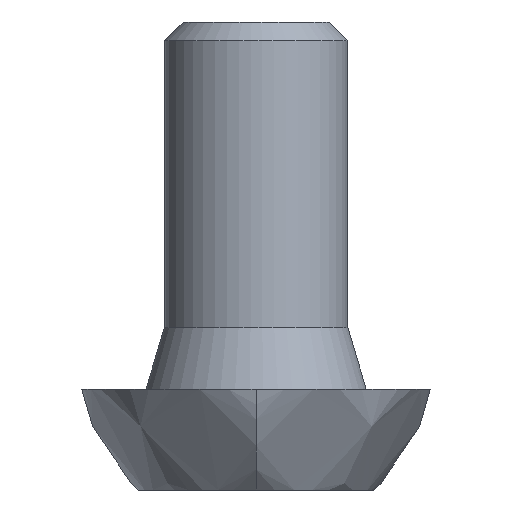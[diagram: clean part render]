
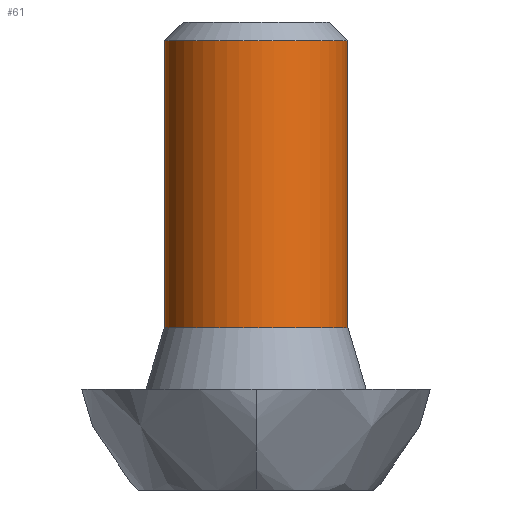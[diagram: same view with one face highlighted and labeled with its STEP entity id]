
A CAD part, front view. The second image highlights one B-rep face of the part: STEP entity #61.
In plain terms, the highlighted free-form (B-spline) face has degree [2, 1] with [9, 2] control points.
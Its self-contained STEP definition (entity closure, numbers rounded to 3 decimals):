
#61=ADVANCED_FACE('',(#86),#791,.T.);
#86=FACE_OUTER_BOUND('',#111,.T.);
#111=EDGE_LOOP('',(#199,#200,#201,#202));
#199=ORIENTED_EDGE('',*,*,#569,.F.);
#200=ORIENTED_EDGE('',*,*,#605,.T.);
#201=ORIENTED_EDGE('',*,*,#571,.F.);
#202=ORIENTED_EDGE('',*,*,#604,.F.);
#260=(
BOUNDED_CURVE()
B_SPLINE_CURVE(2,(#1545,#1546,#1547,#1548,#1549),.UNSPECIFIED.,.F.,.F.)
B_SPLINE_CURVE_WITH_KNOTS((3,2,3),(-4.712,-2.356,0.),
 .UNSPECIFIED.)
CURVE()
GEOMETRIC_REPRESENTATION_ITEM()
RATIONAL_B_SPLINE_CURVE((1.,0.707,1.,0.707,1.))
REPRESENTATION_ITEM('')
);
#261=(
BOUNDED_CURVE()
B_SPLINE_CURVE(2,(#1558,#1559,#1560,#1561,#1562),.UNSPECIFIED.,.F.,.F.)
B_SPLINE_CURVE_WITH_KNOTS((3,2,3),(-4.712,-2.356,0.),
 .UNSPECIFIED.)
CURVE()
GEOMETRIC_REPRESENTATION_ITEM()
RATIONAL_B_SPLINE_CURVE((1.,0.707,1.,0.707,1.))
REPRESENTATION_ITEM('')
);
#289=PCURVE('',#788,#401);
#291=PCURVE('',#788,#403);
#350=PCURVE('',#790,#462);
#353=PCURVE('',#791,#465);
#354=PCURVE('',#791,#466);
#355=PCURVE('',#791,#467);
#356=PCURVE('',#791,#468);
#360=PCURVE('',#792,#472);
#401=DEFINITIONAL_REPRESENTATION('',(#630),#1661);
#403=DEFINITIONAL_REPRESENTATION('',(#633),#1661);
#462=DEFINITIONAL_REPRESENTATION('',(#708),#1661);
#465=DEFINITIONAL_REPRESENTATION('',(#711),#1661);
#466=DEFINITIONAL_REPRESENTATION('',(#712),#1661);
#467=DEFINITIONAL_REPRESENTATION('',(#713),#1661);
#468=DEFINITIONAL_REPRESENTATION('',(#714),#1661);
#472=DEFINITIONAL_REPRESENTATION('',(#718),#1661);
#513=SURFACE_CURVE('',#629,(#289,#353),.PCURVE_S1.);
#515=SURFACE_CURVE('',#632,(#291,#355),.PCURVE_S1.);
#548=SURFACE_CURVE('',#260,(#350,#356),.PCURVE_S1.);
#549=SURFACE_CURVE('',#261,(#354,#360),.PCURVE_S1.);
#569=EDGE_CURVE('',#748,#751,#513,.T.);
#571=EDGE_CURVE('',#752,#749,#515,.T.);
#604=EDGE_CURVE('',#751,#752,#548,.T.);
#605=EDGE_CURVE('',#748,#749,#549,.T.);
#629=B_SPLINE_CURVE_WITH_KNOTS('',1,(#1326,#1327),.UNSPECIFIED.,.F.,.F.,
(2,2),(-4.694,0.),.UNSPECIFIED.);
#630=B_SPLINE_CURVE_WITH_KNOTS('',1,(#1328,#1329),.UNSPECIFIED.,.F.,.F.,
(2,2),(-4.694,0.),.UNSPECIFIED.);
#632=B_SPLINE_CURVE_WITH_KNOTS('',1,(#1337,#1338),.UNSPECIFIED.,.F.,.F.,
(2,2),(-4.694,0.),.UNSPECIFIED.);
#633=B_SPLINE_CURVE_WITH_KNOTS('',1,(#1339,#1340),.UNSPECIFIED.,.F.,.F.,
(2,2),(-4.694,0.),.UNSPECIFIED.);
#708=B_SPLINE_CURVE_WITH_KNOTS('',1,(#1550,#1551),.UNSPECIFIED.,.F.,.F.,
(2,2),(-4.712,0.),.UNSPECIFIED.);
#711=B_SPLINE_CURVE_WITH_KNOTS('',1,(#1556,#1557),.UNSPECIFIED.,.F.,.F.,
(2,2),(-4.694,0.),.UNSPECIFIED.);
#712=B_SPLINE_CURVE_WITH_KNOTS('',1,(#1563,#1564),.UNSPECIFIED.,.F.,.F.,
(2,2),(-4.712,0.),.UNSPECIFIED.);
#713=B_SPLINE_CURVE_WITH_KNOTS('',1,(#1565,#1566),.UNSPECIFIED.,.F.,.F.,
(2,2),(-4.694,0.),.UNSPECIFIED.);
#714=B_SPLINE_CURVE_WITH_KNOTS('',1,(#1567,#1568),.UNSPECIFIED.,.F.,.F.,
(2,2),(-4.712,0.),.UNSPECIFIED.);
#718=B_SPLINE_CURVE_WITH_KNOTS('',1,(#1580,#1581),.UNSPECIFIED.,.F.,.F.,
(2,2),(-4.712,0.),.UNSPECIFIED.);
#748=VERTEX_POINT('',#1224);
#749=VERTEX_POINT('',#1225);
#751=VERTEX_POINT('',#1227);
#752=VERTEX_POINT('',#1228);
#788=(
BOUNDED_SURFACE()
B_SPLINE_SURFACE(2,1,((#1007,#1008),(#1009,#1010),(#1011,#1012),(#1013,#1014),
(#1015,#1016),(#1017,#1018),(#1019,#1020),(#1021,#1022),(#1023,#1024)),
 .UNSPECIFIED.,.T.,.F.,.F.)
B_SPLINE_SURFACE_WITH_KNOTS((3,2,2,2,3),(2,2),(0.,1.571,3.142,
4.712,6.283),(0.,5.635),.UNSPECIFIED.)
GEOMETRIC_REPRESENTATION_ITEM()
RATIONAL_B_SPLINE_SURFACE(((1.,1.),(0.707,0.707),
(1.,1.),(0.707,0.707),(1.,1.),(0.707,
0.707),(1.,1.),(0.707,0.707),(1.,1.)))
REPRESENTATION_ITEM('')
SURFACE()
);
#790=(
BOUNDED_SURFACE()
B_SPLINE_SURFACE(2,1,((#1056,#1057),(#1058,#1059),(#1060,#1061),(#1062,#1063),
(#1064,#1065),(#1066,#1067),(#1068,#1069),(#1070,#1071),(#1072,#1073)),
 .UNSPECIFIED.,.T.,.F.,.F.)
B_SPLINE_SURFACE_WITH_KNOTS((3,2,2,2,3),(2,2),(0.,1.571,3.142,
4.712,6.283),(0.,2.335),.UNSPECIFIED.)
GEOMETRIC_REPRESENTATION_ITEM()
RATIONAL_B_SPLINE_SURFACE(((1.,1.),(0.707,0.707),
(1.,1.),(0.707,0.707),(1.,1.),(0.707,
0.707),(1.,1.),(0.707,0.707),(1.,1.)))
REPRESENTATION_ITEM('')
SURFACE()
);
#791=(
BOUNDED_SURFACE()
B_SPLINE_SURFACE(2,1,((#1074,#1075),(#1076,#1077),(#1078,#1079),(#1080,#1081),
(#1082,#1083),(#1084,#1085),(#1086,#1087),(#1088,#1089),(#1090,#1091)),
 .UNSPECIFIED.,.T.,.F.,.F.)
B_SPLINE_SURFACE_WITH_KNOTS((3,2,2,2,3),(2,2),(0.,1.571,3.142,
4.712,6.283),(0.,5.635),.UNSPECIFIED.)
GEOMETRIC_REPRESENTATION_ITEM()
RATIONAL_B_SPLINE_SURFACE(((1.,1.),(0.707,0.707),
(1.,1.),(0.707,0.707),(1.,1.),(0.707,
0.707),(1.,1.),(0.707,0.707),(1.,1.)))
REPRESENTATION_ITEM('')
SURFACE()
);
#792=(
BOUNDED_SURFACE()
B_SPLINE_SURFACE(2,1,((#1092,#1093),(#1094,#1095),(#1096,#1097),(#1098,#1099),
(#1100,#1101),(#1102,#1103),(#1104,#1105),(#1106,#1107),(#1108,#1109)),
 .UNSPECIFIED.,.T.,.F.,.F.)
B_SPLINE_SURFACE_WITH_KNOTS((3,2,2,2,3),(2,2),(0.,1.571,3.142,
4.712,6.283),(0.,6.892),.UNSPECIFIED.)
GEOMETRIC_REPRESENTATION_ITEM()
RATIONAL_B_SPLINE_SURFACE(((1.,1.),(0.707,0.707),
(1.,1.),(0.707,0.707),(1.,1.),(0.707,
0.707),(1.,1.),(0.707,0.707),(1.,1.)))
REPRESENTATION_ITEM('')
SURFACE()
);
#1007=CARTESIAN_POINT('',(0.529,0.,1.5));
#1008=CARTESIAN_POINT('',(6.164,0.,1.5));
#1009=CARTESIAN_POINT('',(0.529,-1.5,1.5));
#1010=CARTESIAN_POINT('',(6.164,-1.5,1.5));
#1011=CARTESIAN_POINT('',(0.529,-1.5,0.));
#1012=CARTESIAN_POINT('',(6.164,-1.5,0.));
#1013=CARTESIAN_POINT('',(0.529,-1.5,-1.5));
#1014=CARTESIAN_POINT('',(6.164,-1.5,-1.5));
#1015=CARTESIAN_POINT('',(0.529,0.,-1.5));
#1016=CARTESIAN_POINT('',(6.164,0.,-1.5));
#1017=CARTESIAN_POINT('',(0.529,1.5,-1.5));
#1018=CARTESIAN_POINT('',(6.164,1.5,-1.5));
#1019=CARTESIAN_POINT('',(0.529,1.5,0.));
#1020=CARTESIAN_POINT('',(6.164,1.5,0.));
#1021=CARTESIAN_POINT('',(0.529,1.5,1.5));
#1022=CARTESIAN_POINT('',(6.164,1.5,1.5));
#1023=CARTESIAN_POINT('',(0.529,0.,1.5));
#1024=CARTESIAN_POINT('',(6.164,0.,1.5));
#1056=CARTESIAN_POINT('',(7.194,0.,0.));
#1057=CARTESIAN_POINT('',(5.542,0.,-1.651));
#1058=CARTESIAN_POINT('',(7.194,0.,0.));
#1059=CARTESIAN_POINT('',(5.542,-1.651,-1.651));
#1060=CARTESIAN_POINT('',(7.194,0.,0.));
#1061=CARTESIAN_POINT('',(5.542,-1.651,0.));
#1062=CARTESIAN_POINT('',(7.194,0.,0.));
#1063=CARTESIAN_POINT('',(5.542,-1.651,1.651));
#1064=CARTESIAN_POINT('',(7.194,0.,0.));
#1065=CARTESIAN_POINT('',(5.542,0.,1.651));
#1066=CARTESIAN_POINT('',(7.194,0.,0.));
#1067=CARTESIAN_POINT('',(5.542,1.651,1.651));
#1068=CARTESIAN_POINT('',(7.194,0.,0.));
#1069=CARTESIAN_POINT('',(5.542,1.651,0.));
#1070=CARTESIAN_POINT('',(7.194,0.,0.));
#1071=CARTESIAN_POINT('',(5.542,1.651,-1.651));
#1072=CARTESIAN_POINT('',(7.194,0.,0.));
#1073=CARTESIAN_POINT('',(5.542,0.,-1.651));
#1074=CARTESIAN_POINT('',(0.529,0.,-1.5));
#1075=CARTESIAN_POINT('',(6.164,0.,-1.5));
#1076=CARTESIAN_POINT('',(0.529,1.5,-1.5));
#1077=CARTESIAN_POINT('',(6.164,1.5,-1.5));
#1078=CARTESIAN_POINT('',(0.529,1.5,0.));
#1079=CARTESIAN_POINT('',(6.164,1.5,0.));
#1080=CARTESIAN_POINT('',(0.529,1.5,1.5));
#1081=CARTESIAN_POINT('',(6.164,1.5,1.5));
#1082=CARTESIAN_POINT('',(0.529,0.,1.5));
#1083=CARTESIAN_POINT('',(6.164,0.,1.5));
#1084=CARTESIAN_POINT('',(0.529,-1.5,1.5));
#1085=CARTESIAN_POINT('',(6.164,-1.5,1.5));
#1086=CARTESIAN_POINT('',(0.529,-1.5,0.));
#1087=CARTESIAN_POINT('',(6.164,-1.5,0.));
#1088=CARTESIAN_POINT('',(0.529,-1.5,-1.5));
#1089=CARTESIAN_POINT('',(6.164,-1.5,-1.5));
#1090=CARTESIAN_POINT('',(0.529,0.,-1.5));
#1091=CARTESIAN_POINT('',(6.164,0.,-1.5));
#1092=CARTESIAN_POINT('',(6.,0.,0.));
#1093=CARTESIAN_POINT('',(-0.601,0.,-1.98));
#1094=CARTESIAN_POINT('',(6.,0.,0.));
#1095=CARTESIAN_POINT('',(-0.601,-1.98,-1.98));
#1096=CARTESIAN_POINT('',(6.,0.,0.));
#1097=CARTESIAN_POINT('',(-0.601,-1.98,0.));
#1098=CARTESIAN_POINT('',(6.,0.,0.));
#1099=CARTESIAN_POINT('',(-0.601,-1.98,1.98));
#1100=CARTESIAN_POINT('',(6.,0.,0.));
#1101=CARTESIAN_POINT('',(-0.601,0.,1.98));
#1102=CARTESIAN_POINT('',(6.,0.,0.));
#1103=CARTESIAN_POINT('',(-0.601,1.98,1.98));
#1104=CARTESIAN_POINT('',(6.,0.,0.));
#1105=CARTESIAN_POINT('',(-0.601,1.98,0.));
#1106=CARTESIAN_POINT('',(6.,0.,0.));
#1107=CARTESIAN_POINT('',(-0.601,1.98,-1.98));
#1108=CARTESIAN_POINT('',(6.,0.,0.));
#1109=CARTESIAN_POINT('',(-0.601,0.,-1.98));
#1224=CARTESIAN_POINT('',(1.,1.5,0.));
#1225=CARTESIAN_POINT('',(1.,-1.5,0.));
#1227=CARTESIAN_POINT('',(5.694,1.5,0.));
#1228=CARTESIAN_POINT('',(5.694,-1.5,0.));
#1326=CARTESIAN_POINT('',(1.,1.5,0.));
#1327=CARTESIAN_POINT('',(5.694,1.5,0.));
#1328=CARTESIAN_POINT('',(4.712,0.471));
#1329=CARTESIAN_POINT('',(4.712,5.164));
#1337=CARTESIAN_POINT('',(5.694,-1.5,0.));
#1338=CARTESIAN_POINT('',(1.,-1.5,0.));
#1339=CARTESIAN_POINT('',(1.571,5.164));
#1340=CARTESIAN_POINT('',(1.571,0.471));
#1545=CARTESIAN_POINT('',(5.694,1.5,0.));
#1546=CARTESIAN_POINT('',(5.694,1.5,1.5));
#1547=CARTESIAN_POINT('',(5.694,0.,1.5));
#1548=CARTESIAN_POINT('',(5.694,-1.5,1.5));
#1549=CARTESIAN_POINT('',(5.694,-1.5,0.));
#1550=CARTESIAN_POINT('',(4.712,2.121));
#1551=CARTESIAN_POINT('',(1.571,2.121));
#1556=CARTESIAN_POINT('',(1.571,0.471));
#1557=CARTESIAN_POINT('',(1.571,5.164));
#1558=CARTESIAN_POINT('',(1.,1.5,0.));
#1559=CARTESIAN_POINT('',(1.,1.5,1.5));
#1560=CARTESIAN_POINT('',(1.,0.,1.5));
#1561=CARTESIAN_POINT('',(1.,-1.5,1.5));
#1562=CARTESIAN_POINT('',(1.,-1.5,0.));
#1563=CARTESIAN_POINT('',(1.571,0.471));
#1564=CARTESIAN_POINT('',(4.712,0.471));
#1565=CARTESIAN_POINT('',(4.712,5.164));
#1566=CARTESIAN_POINT('',(4.712,0.471));
#1567=CARTESIAN_POINT('',(1.571,5.164));
#1568=CARTESIAN_POINT('',(4.712,5.164));
#1580=CARTESIAN_POINT('',(4.712,5.22));
#1581=CARTESIAN_POINT('',(1.571,5.22));
#1661=(
GEOMETRIC_REPRESENTATION_CONTEXT(2)
PARAMETRIC_REPRESENTATION_CONTEXT()
REPRESENTATION_CONTEXT('pspace','')
);
